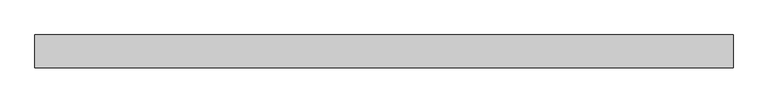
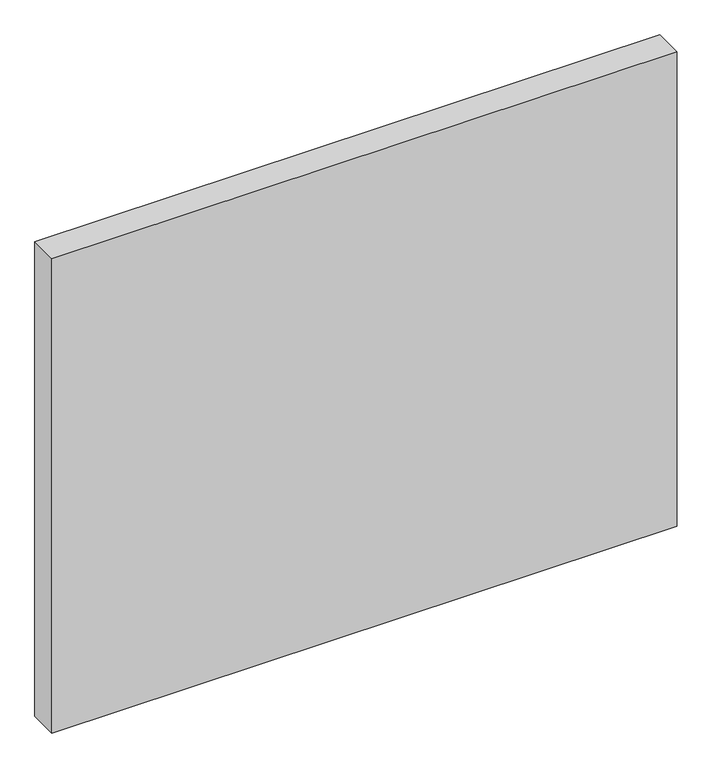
"""IFC4 building model written with IfcOpenShell, lengths in millimetres: proxy geometry."""

from ifc_helpers import new_model, si_unit, origin, origin_with_axes, place, context, project, spatial, polyline, outline, extrude, source, transform, mapped, element, save


def generic_models_0b2a4b7d(model_context):
    return source(origin(), model_context, "Body", "SweptSolid", [
        extrude(outline(polyline([(2120.0, 0.0), (0.0, 0.0), (0.0, 100.0), (2120.0, 100.0), (2120.0, 0.0)])), origin_with_axes(), (0.0, 0.0, 1.0), 1700.0),
    ])


if __name__ == "__main__":
    model = new_model("IFC4")
    model_context = context("Model", 3, world=origin())
    ifc_project = project(units=[si_unit("LENGTHUNIT", "METRE", prefix="MILLI")], contexts=[model_context])
    site = spatial("IfcSite", under=ifc_project)
    building = spatial("IfcBuilding", under=site)
    placement = place(None, origin())
    generic_models_shape = generic_models_0b2a4b7d(model_context)
    element("IfcBuildingElementProxy", 1, Name="Generic Models", at=placement, inside=building, context=model_context, shape_type="MappedRepresentation", body=[
        mapped(generic_models_shape, transform((0.0, 0.0, 0.0), x_axis=(1.0, 0.0, 0.0), y_axis=(0.0, 1.0, 0.0), z_axis=(0.0, 0.0, 1.0))),
    ])
    save(model, "model.ifc")
